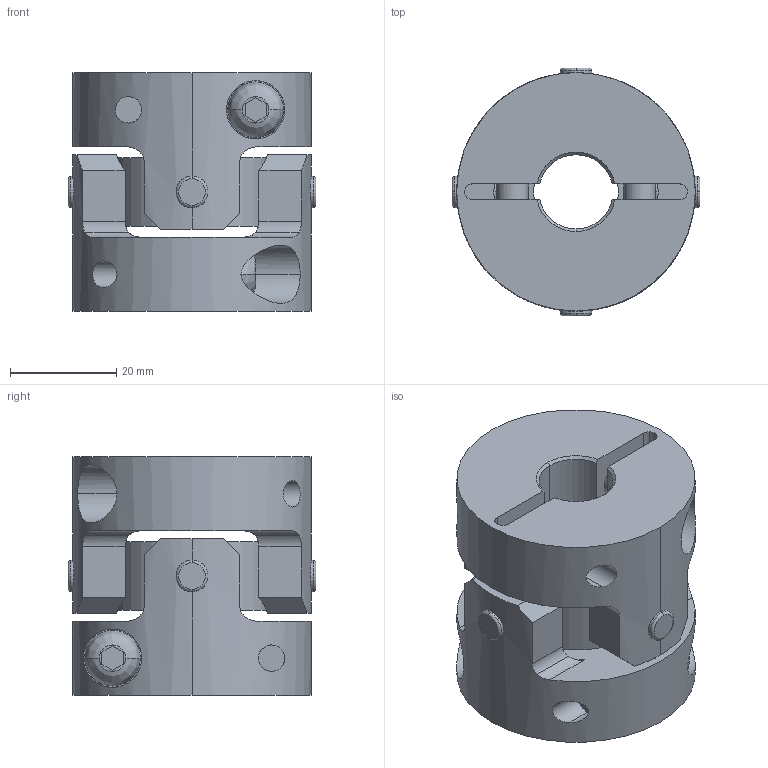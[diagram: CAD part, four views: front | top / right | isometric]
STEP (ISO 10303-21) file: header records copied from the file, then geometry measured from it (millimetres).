
FILE_DESCRIPTION((''),'2;1');
FILE_NAME('UA-45C-14×19.stp','2013-05-22T10:06:02',(''),(''),'AutoCAD STEP 2000i','AutoCAD 2000i',', , ');
FILE_SCHEMA(('CONFIG_CONTROL_DESIGN'));
Length unit declared in the file: millimetre
Products named in the file (7): UA-45C-8×17; 忣兜1; UA-4502-D17; BTN-M6; UA-4502-D08-1; UA-4502-D08; UA45-SEN
Assembly tree (8 placements, depth 3):
  UA-45C-8×17
    忣兜1
    UA-4502-D17
      BTN-M6
    UA-4502-D08-1
      BTN-M6
    UA-4502-D08
      BTN-M6
    UA45-SEN
Bounding box: 46.73 x 46.73 x 45 mm (x, y, z)
Volume: 48236.9 mm3; surface area: 19720.5 mm2
Topology: 1 solids, 1 shells, 206 faces, 554 edges, 364 vertices
Faces by surface type: cylinder 96, plane 78, cone 16, bspline 8, torus 8
Entity records: 8537 total; most frequent: CARTESIAN_POINT 3201, ORIENTED_EDGE 1108, DIRECTION 1068, EDGE_CURVE 554, AXIS2_PLACEMENT_3D 411, VERTEX_POINT 364, VECTOR 246, LINE 246
